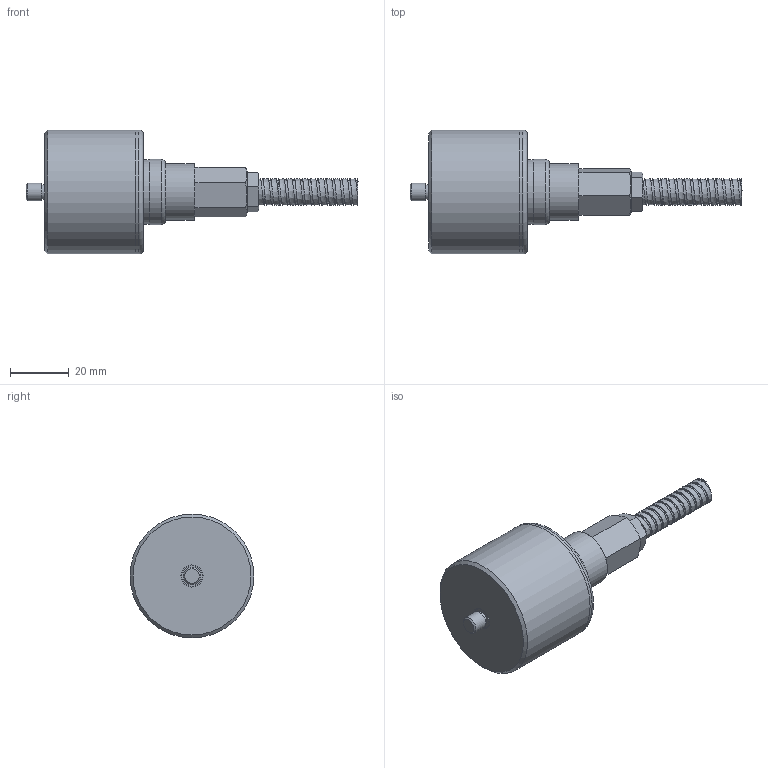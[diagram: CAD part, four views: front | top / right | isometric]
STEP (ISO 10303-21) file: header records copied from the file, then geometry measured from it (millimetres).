
FILE_DESCRIPTION(/* description */ (''),/* implementation_level */ '2;1');
FILE_NAME(/* name */ 'Z:\Engineering\Drawings\3D Library\Assemblies\Website\Triaxial Top\Premium\HS-173 Round FEP Conduit\HS-173RXXX42C06.stp',/* time_stamp */ '2023-03-25T19:43:22+00:00',/* author */ ('Ricardo.Peneda'),/* organization */ (''),/* preprocessor_version */ 'ST-DEVELOPER v18.1',/* originating_system */ 'Autodesk Inventor 2021',/* authorisation */ '');
FILE_SCHEMA (('AUTOMOTIVE_DESIGN { 1 0 10303 214 3 1 1 }'));
Length unit declared in the file: inch
Products named in the file (1): HS-173RXXX42C06_Shrinkwrap_1
Bounding box: 112.59 x 42 x 42 mm (x, y, z)
Volume: 53598.2 mm3; surface area: 19225 mm2
Topology: 7 solids, 7 shells, 117 faces, 298 edges, 216 vertices
Faces by surface type: plane 48, cylinder 31, cone 25, bspline 8, torus 3, sphere 2
Full cylindrical faces by diameter (mm): 5 x2, 5.359 x1, 6 x1, 6.35 x1, 6.5 x1, 7 x1, 7.5 x1, 7.9 x2, 8.6 x1, 9 x1, 10.2 x1, 11.959 x1, 12 x3, 14 x2, 15 x2, 18 x1, 19 x1, 19.95 x1, 20 x1, 22 x1, 22.2 x1, 40 x1, 42 x2
Entity records: 17813 total; most frequent: CARTESIAN_POINT 14729, DIRECTION 632, ORIENTED_EDGE 592, EDGE_CURVE 296, AXIS2_PLACEMENT_3D 273, VERTEX_POINT 216, CIRCLE 163, EDGE_LOOP 146
